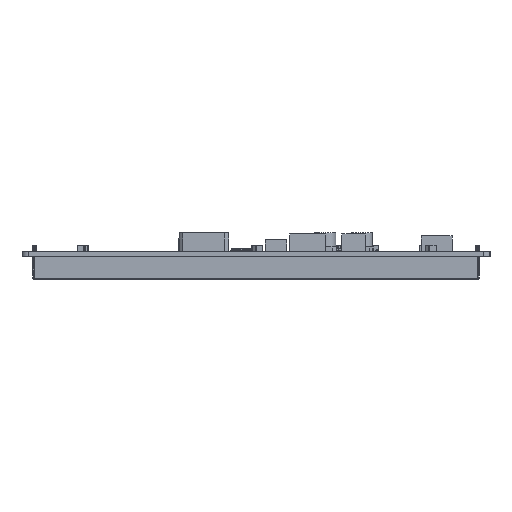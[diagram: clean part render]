
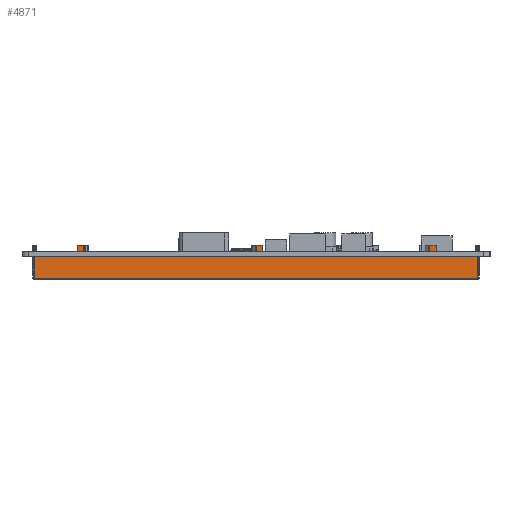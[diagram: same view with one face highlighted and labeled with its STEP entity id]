
A CAD part, left-side view. The second image highlights one B-rep face of the part: STEP entity #4871.
In plain terms, the highlighted planar face has unit normal (-1, 0, 0).
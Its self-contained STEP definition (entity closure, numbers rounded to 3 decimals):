
#4871=ADVANCED_FACE('',(#9375),#6961,.F.);
#6961=PLANE('',#56239);
#9375=FACE_OUTER_BOUND('',#11963,.T.);
#11963=EDGE_LOOP('',(#25240,#25241,#25242,#25243,#25244,#25245,#25246,#25247,
#25248,#25249,#25250,#25251,#25252,#25253,#25254,#25255,#25256,#25257,#25258,
#25259,#25260,#25261));
#25240=ORIENTED_EDGE('',*,*,#37795,.F.);
#25241=ORIENTED_EDGE('',*,*,#37796,.T.);
#25242=ORIENTED_EDGE('',*,*,#37797,.T.);
#25243=ORIENTED_EDGE('',*,*,#37792,.T.);
#25244=ORIENTED_EDGE('',*,*,#37798,.F.);
#25245=ORIENTED_EDGE('',*,*,#37799,.F.);
#25246=ORIENTED_EDGE('',*,*,#37800,.T.);
#25247=ORIENTED_EDGE('',*,*,#37801,.T.);
#25248=ORIENTED_EDGE('',*,*,#37802,.T.);
#25249=ORIENTED_EDGE('',*,*,#37788,.T.);
#25250=ORIENTED_EDGE('',*,*,#37803,.F.);
#25251=ORIENTED_EDGE('',*,*,#37804,.F.);
#25252=ORIENTED_EDGE('',*,*,#37805,.T.);
#25253=ORIENTED_EDGE('',*,*,#37806,.T.);
#25254=ORIENTED_EDGE('',*,*,#37807,.T.);
#25255=ORIENTED_EDGE('',*,*,#37784,.T.);
#25256=ORIENTED_EDGE('',*,*,#37808,.F.);
#25257=ORIENTED_EDGE('',*,*,#37809,.T.);
#25258=ORIENTED_EDGE('',*,*,#37810,.F.);
#25259=ORIENTED_EDGE('',*,*,#37811,.F.);
#25260=ORIENTED_EDGE('',*,*,#37812,.T.);
#25261=ORIENTED_EDGE('',*,*,#37782,.T.);
#30830=VERTEX_POINT('',#83647);
#30832=VERTEX_POINT('',#83651);
#30833=VERTEX_POINT('',#83655);
#30835=VERTEX_POINT('',#83658);
#30837=VERTEX_POINT('',#83664);
#30839=VERTEX_POINT('',#83667);
#30841=VERTEX_POINT('',#83673);
#30843=VERTEX_POINT('',#83676);
#30845=VERTEX_POINT('',#83682);
#30846=VERTEX_POINT('',#83684);
#30847=VERTEX_POINT('',#83687);
#30848=VERTEX_POINT('',#83689);
#30849=VERTEX_POINT('',#83691);
#30850=VERTEX_POINT('',#83693);
#30851=VERTEX_POINT('',#83696);
#30852=VERTEX_POINT('',#83698);
#30853=VERTEX_POINT('',#83700);
#30854=VERTEX_POINT('',#83702);
#30855=VERTEX_POINT('',#83705);
#30856=VERTEX_POINT('',#83707);
#30857=VERTEX_POINT('',#83709);
#30858=VERTEX_POINT('',#83711);
#37782=EDGE_CURVE('',#30830,#30832,#45657,.T.);
#37784=EDGE_CURVE('',#30835,#30833,#45659,.T.);
#37788=EDGE_CURVE('',#30839,#30837,#45663,.T.);
#37792=EDGE_CURVE('',#30843,#30841,#45667,.T.);
#37795=EDGE_CURVE('',#30845,#30832,#45670,.T.);
#37796=EDGE_CURVE('',#30845,#30846,#45671,.T.);
#37797=EDGE_CURVE('',#30846,#30843,#45672,.T.);
#37798=EDGE_CURVE('',#30847,#30841,#45673,.T.);
#37799=EDGE_CURVE('',#30848,#30847,#45674,.T.);
#37800=EDGE_CURVE('',#30848,#30849,#45675,.T.);
#37801=EDGE_CURVE('',#30849,#30850,#45676,.T.);
#37802=EDGE_CURVE('',#30850,#30839,#45677,.T.);
#37803=EDGE_CURVE('',#30851,#30837,#45678,.T.);
#37804=EDGE_CURVE('',#30852,#30851,#45679,.T.);
#37805=EDGE_CURVE('',#30852,#30853,#45680,.T.);
#37806=EDGE_CURVE('',#30853,#30854,#45681,.T.);
#37807=EDGE_CURVE('',#30854,#30835,#45682,.T.);
#37808=EDGE_CURVE('',#30855,#30833,#45683,.T.);
#37809=EDGE_CURVE('',#30855,#30856,#45684,.T.);
#37810=EDGE_CURVE('',#30857,#30856,#45685,.T.);
#37811=EDGE_CURVE('',#30858,#30857,#45686,.T.);
#37812=EDGE_CURVE('',#30858,#30830,#45687,.T.);
#45657=LINE('',#83652,#51989);
#45659=LINE('',#83657,#51991);
#45663=LINE('',#83666,#51995);
#45667=LINE('',#83675,#51999);
#45670=LINE('',#83681,#52002);
#45671=LINE('',#83683,#52003);
#45672=LINE('',#83685,#52004);
#45673=LINE('',#83686,#52005);
#45674=LINE('',#83688,#52006);
#45675=LINE('',#83690,#52007);
#45676=LINE('',#83692,#52008);
#45677=LINE('',#83694,#52009);
#45678=LINE('',#83695,#52010);
#45679=LINE('',#83697,#52011);
#45680=LINE('',#83699,#52012);
#45681=LINE('',#83701,#52013);
#45682=LINE('',#83703,#52014);
#45683=LINE('',#83704,#52015);
#45684=LINE('',#83706,#52016);
#45685=LINE('',#83708,#52017);
#45686=LINE('',#83710,#52018);
#45687=LINE('',#83712,#52019);
#51989=VECTOR('',#68500,1.);
#51991=VECTOR('',#68504,1.);
#51995=VECTOR('',#68510,1.);
#51999=VECTOR('',#68516,1.);
#52002=VECTOR('',#68521,1.);
#52003=VECTOR('',#68522,1.);
#52004=VECTOR('',#68523,1.);
#52005=VECTOR('',#68524,1.);
#52006=VECTOR('',#68525,1.);
#52007=VECTOR('',#68526,1.);
#52008=VECTOR('',#68527,1.);
#52009=VECTOR('',#68528,1.);
#52010=VECTOR('',#68529,1.);
#52011=VECTOR('',#68530,1.);
#52012=VECTOR('',#68531,1.);
#52013=VECTOR('',#68532,1.);
#52014=VECTOR('',#68533,1.);
#52015=VECTOR('',#68534,1.);
#52016=VECTOR('',#68535,1.);
#52017=VECTOR('',#68536,1.);
#52018=VECTOR('',#68537,1.);
#52019=VECTOR('',#68538,1.);
#56239=AXIS2_PLACEMENT_3D('',#83713,#68539,#68540);
#68500=DIRECTION('',(0.,1.,0.));
#68504=DIRECTION('',(0.,1.,0.));
#68510=DIRECTION('',(0.,1.,0.));
#68516=DIRECTION('',(0.,1.,0.));
#68521=DIRECTION('',(0.,0.,1.));
#68522=DIRECTION('',(0.,-1.,0.));
#68523=DIRECTION('',(0.,0.,1.));
#68524=DIRECTION('',(0.,0.,-1.));
#68525=DIRECTION('',(0.,-1.,0.));
#68526=DIRECTION('',(0.,0.,-1.));
#68527=DIRECTION('',(0.,-1.,0.));
#68528=DIRECTION('',(0.,0.,-1.));
#68529=DIRECTION('',(0.,0.,-1.));
#68530=DIRECTION('',(0.,-1.,0.));
#68531=DIRECTION('',(0.,0.,-1.));
#68532=DIRECTION('',(0.,-1.,0.));
#68533=DIRECTION('',(0.,0.,-1.));
#68534=DIRECTION('',(0.,0.,-1.));
#68535=DIRECTION('',(0.,-1.,0.));
#68536=DIRECTION('',(0.,0.,-1.));
#68537=DIRECTION('',(0.,-1.,0.));
#68538=DIRECTION('',(0.,0.,-1.));
#68539=DIRECTION('',(1.,0.,0.));
#68540=DIRECTION('',(0.,1.,0.));
#83647=CARTESIAN_POINT('',(-84.85,60.795,-1.6));
#83651=CARTESIAN_POINT('',(-84.85,74.48,-1.6));
#83652=CARTESIAN_POINT('',(-84.85,-66.52,-1.6));
#83655=CARTESIAN_POINT('',(-84.85,58.795,-1.6));
#83657=CARTESIAN_POINT('',(-84.85,-66.52,-1.6));
#83658=CARTESIAN_POINT('',(-84.85,3.795,-1.6));
#83664=CARTESIAN_POINT('',(-84.85,1.795,-1.6));
#83666=CARTESIAN_POINT('',(-84.85,-66.52,-1.6));
#83667=CARTESIAN_POINT('',(-84.85,-51.325,-1.6));
#83673=CARTESIAN_POINT('',(-84.85,-53.325,-1.6));
#83675=CARTESIAN_POINT('',(-84.85,-66.52,-1.6));
#83676=CARTESIAN_POINT('',(-84.85,-66.52,-1.6));
#83681=CARTESIAN_POINT('',(-84.85,74.48,-8.8));
#83682=CARTESIAN_POINT('',(-84.85,74.48,-8.4));
#83683=CARTESIAN_POINT('',(-84.85,-66.52,-8.4));
#83684=CARTESIAN_POINT('',(-84.85,-66.52,-8.4));
#83685=CARTESIAN_POINT('',(-84.85,-66.52,-8.8));
#83686=CARTESIAN_POINT('',(-84.85,-53.325,2.));
#83687=CARTESIAN_POINT('',(-84.85,-53.325,2.));
#83688=CARTESIAN_POINT('',(-84.85,-51.243,2.));
#83689=CARTESIAN_POINT('',(-84.85,-51.243,2.));
#83690=CARTESIAN_POINT('',(-84.85,-51.243,2.));
#83691=CARTESIAN_POINT('',(-84.85,-51.243,0.));
#83692=CARTESIAN_POINT('',(-84.85,-51.243,0.));
#83693=CARTESIAN_POINT('',(-84.85,-51.325,0.));
#83694=CARTESIAN_POINT('',(-84.85,-51.325,0.));
#83695=CARTESIAN_POINT('',(-84.85,1.795,2.));
#83696=CARTESIAN_POINT('',(-84.85,1.795,2.));
#83697=CARTESIAN_POINT('',(-84.85,3.877,2.));
#83698=CARTESIAN_POINT('',(-84.85,3.877,2.));
#83699=CARTESIAN_POINT('',(-84.85,3.877,2.));
#83700=CARTESIAN_POINT('',(-84.85,3.877,0.));
#83701=CARTESIAN_POINT('',(-84.85,3.877,0.));
#83702=CARTESIAN_POINT('',(-84.85,3.795,0.));
#83703=CARTESIAN_POINT('',(-84.85,3.795,0.));
#83704=CARTESIAN_POINT('',(-84.85,58.795,0.));
#83705=CARTESIAN_POINT('',(-84.85,58.795,0.));
#83706=CARTESIAN_POINT('',(-84.85,60.795,0.));
#83707=CARTESIAN_POINT('',(-84.85,58.713,0.));
#83708=CARTESIAN_POINT('',(-84.85,58.713,2.));
#83709=CARTESIAN_POINT('',(-84.85,58.713,2.));
#83710=CARTESIAN_POINT('',(-84.85,60.795,2.));
#83711=CARTESIAN_POINT('',(-84.85,60.795,2.));
#83712=CARTESIAN_POINT('',(-84.85,60.795,2.));
#83713=CARTESIAN_POINT('',(-84.85,-66.52,-8.8));
